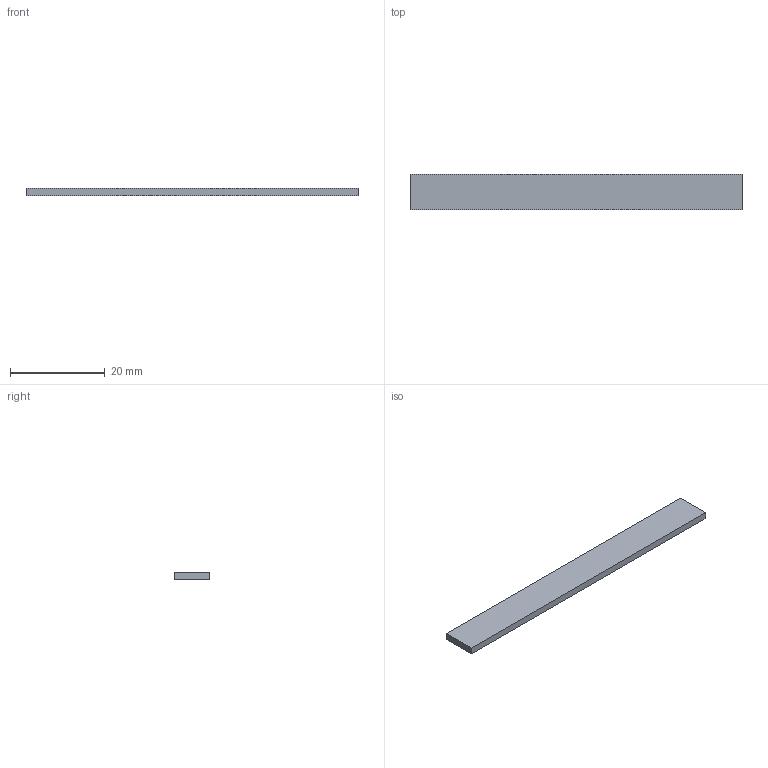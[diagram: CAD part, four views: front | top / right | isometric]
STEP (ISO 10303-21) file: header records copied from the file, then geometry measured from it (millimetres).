
FILE_DESCRIPTION(/* description */ ('STEP AP242 Edition 2','CAx-IF Rec.Pracs.---Representation and Presentation of Product Manufacturing Information (PMI)---4.0---2014-10-13','CAx-IF Rec.Pracs.---3D Tessellated Geometry---0.4---2014-09-14','2;1','CAx-IF Rec.Pracs.---User Defined Attributes---1.5---2016-08-15'),/* implementation_level */ '2;1');
FILE_NAME(/* name */ 'Electronics-Components - Part 13',/* time_stamp */ '2026-04-22T00:02:36Z',/* author */ (''),/* organization */ (''),/* preprocessor_version */ 'ST-DEVELOPER v20',/* originating_system */ 'ONSHAPE BY PTC INC, 1.213',/* authorisation */ ' ');
FILE_SCHEMA (('AP242_MANAGED_MODEL_BASED_3D_ENGINEERING_MIM_LF { 1 0 10303 442 3 1 4 }'));
Length unit declared in the file: metre
Products named in the file (1): Part 13
Bounding box: 70 x 7.5 x 1.5 mm (x, y, z)
Volume: 787.5 mm3; surface area: 1282.5 mm2
Topology: 1 solids, 1 shells, 6 faces, 12 edges, 8 vertices
Faces by surface type: plane 6
Entity records: 178 total; most frequent: CARTESIAN_POINT 27, DIRECTION 26, ORIENTED_EDGE 24, EDGE_CURVE 12, LINE 12, VECTOR 12, VERTEX_POINT 8, AXIS2_PLACEMENT_3D 7
